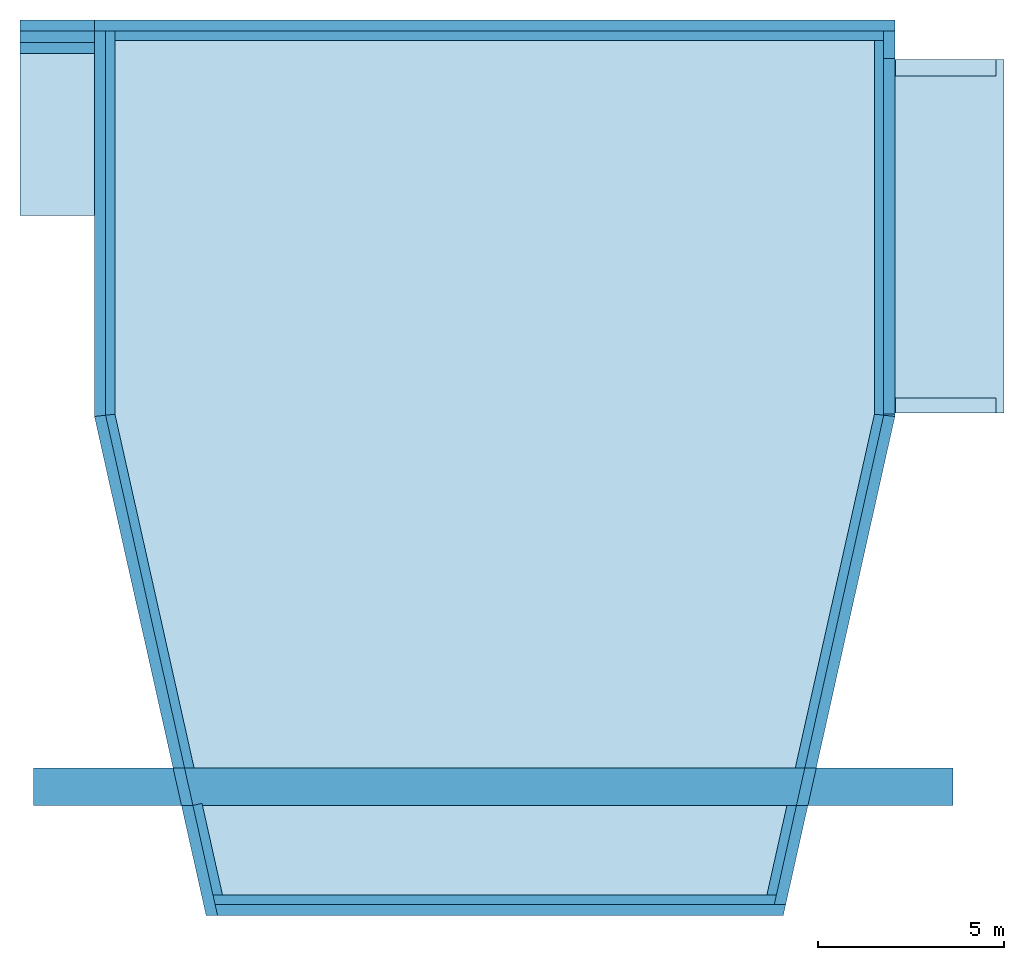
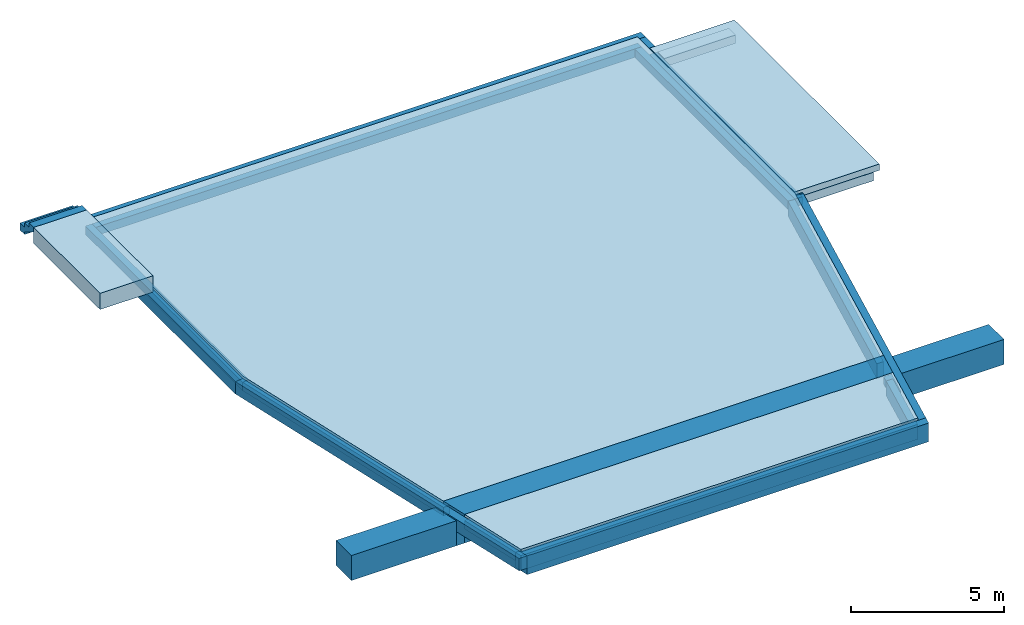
# One storey: 23 footings, 4 slabs, 1 stair.
"""IFC4 building model written with IfcOpenShell, lengths in metres."""

import ifcopenshell
import ifcopenshell.guid

model = None  # the IFC model being written
_history = None  # IfcOwnerHistory: only IFC2X3 demands one
_inside = {}  # id of a spatial element -> (the spatial element, [elements in it])
_under = {}  # id of a project, library or spatial element -> (it, [spatial elements below it])
_declared = {}  # id of a project -> (the project, [libraries it declares])
_typed = {}  # id of a type object -> (the type object, [elements of that type])
_made_of = {}  # id of a material, layer set ... -> (it, [elements and type objects made of it])


def new_model(schema):
    """Start an empty IFC model of exactly this schema.

    Asked for "IFC4X3", IfcOpenShell would pick the latest addendum, in which some entities
    have other attributes; the version numbers below select the first issue.
    IFC2X3 requires an IfcOwnerHistory on every rooted entity: one is made here for all.
    """
    global model, _history
    if schema == "IFC4X3":
        model = ifcopenshell.file(schema_version=(4, 3, 0, 0))
    else:
        model = ifcopenshell.file(schema=schema)
    _inside.clear()
    _under.clear()
    _declared.clear()
    _typed.clear()
    _made_of.clear()
    _history = None
    if model.schema == "IFC2X3":
        org = make("IfcOrganization", Name="unknown")
        user = make(
            "IfcPersonAndOrganization",
            ThePerson=make("IfcPerson", FamilyName="unknown"),
            TheOrganization=org,
        )
        app = make(
            "IfcApplication",
            ApplicationDeveloper=org,
            Version="unknown",
            ApplicationFullName="unknown",
            ApplicationIdentifier="unknown",
        )
        _history = make(
            "IfcOwnerHistory",
            OwningUser=user,
            OwningApplication=app,
            ChangeAction="ADDED",
            CreationDate=0,
        )
    return model


def make(cls, **values):
    """One entity of the class cls with the attributes given. An attribute that is None is left unset."""
    return model.create_entity(
        cls, **{name: value for name, value in values.items() if value is not None}
    )


def entity(cls, *values):
    """Any entity or typed value of the class cls, its attributes in the order of the schema. None: left unset."""
    e = model.create_entity(cls)
    for i, value in enumerate(values):
        if value is not None:
            e[i] = value
    return e


def rooted(cls, **values):
    """An entity with a GlobalId (a new one), such as an element, a storey or a relation."""
    return make(cls, GlobalId=ifcopenshell.guid.new(), OwnerHistory=_history, **values)


def si_unit(unit_type, name, prefix=None):
    """IfcSIUnit, for example si_unit("LENGTHUNIT", "METRE", prefix="MILLI")."""
    return make("IfcSIUnit", UnitType=unit_type, Prefix=prefix, Name=name)


def converted_unit(unit_type, name, factor, base, dimensions=None, offset=None):
    """IfcConversionBasedUnit, such as the inch: factor (a typed value) times the base unit."""
    return make(
        "IfcConversionBasedUnit"
        if offset is None
        else "IfcConversionBasedUnitWithOffset",
        ConversionOffset=offset,
        Dimensions=None
        if dimensions is None
        else entity("IfcDimensionalExponents", *dimensions),
        UnitType=unit_type,
        Name=name,
        ConversionFactor=make(
            "IfcMeasureWithUnit", ValueComponent=factor, UnitComponent=base
        ),
    )


def derived_unit(unit_type, elements):
    """IfcDerivedUnit: a product of units, each with its exponent."""
    return make(
        "IfcDerivedUnit",
        Elements=[
            make("IfcDerivedUnitElement", Unit=unit, Exponent=power)
            for unit, power in elements
        ],
        UnitType=unit_type,
    )


def assignment(units):
    """IfcUnitAssignment: the units of a project."""
    return None if units is None else make("IfcUnitAssignment", Units=units)


def point(xyz):
    """IfcCartesianPoint."""
    return None if xyz is None else make("IfcCartesianPoint", Coordinates=xyz)


def direction(xyz):
    """IfcDirection."""
    return None if xyz is None else make("IfcDirection", DirectionRatios=xyz)


def frame(location, z_axis=None, x_axis=None):
    """IfcAxis2Placement3D, a coordinate frame: its origin and axes. An axis left out is left unset."""
    return make(
        "IfcAxis2Placement3D",
        Location=point(location),
        Axis=direction(z_axis),
        RefDirection=direction(x_axis),
    )


def frame_2d(location, x_axis=None):
    """IfcAxis2Placement2D, a coordinate frame in the plane: its origin and x axis."""
    return make(
        "IfcAxis2Placement2D", Location=point(location), RefDirection=direction(x_axis)
    )


def origin():
    """The frame at (0, 0, 0) with its axes left unset."""
    return frame((0.0, 0.0, 0.0))


def origin_with_axes():
    """The frame at (0, 0, 0) with the z axis (0, 0, 1) and the x axis (1, 0, 0) written out."""
    return frame((0.0, 0.0, 0.0), z_axis=(0.0, 0.0, 1.0), x_axis=(1.0, 0.0, 0.0))


def place(relative_to, where):
    """IfcLocalPlacement: puts the frame where relative to a parent placement (None: the world)."""
    return make(
        "IfcLocalPlacement", PlacementRelTo=relative_to, RelativePlacement=where
    )


def context(
    kind, dimensions, precision=None, world=None, true_north=None, identifier=None
):
    """IfcGeometricRepresentationContext, for example the 3D "Model" context."""
    return make(
        "IfcGeometricRepresentationContext",
        ContextIdentifier=identifier,
        ContextType=kind,
        CoordinateSpaceDimension=dimensions,
        Precision=precision,
        WorldCoordinateSystem=world,
        TrueNorth=true_north,
    )


def subcontext(parent, identifier, kind, view, scale=None):
    """IfcGeometricRepresentationSubContext, for example "Body" below "Model"."""
    return make(
        "IfcGeometricRepresentationSubContext",
        ContextIdentifier=identifier,
        ContextType=kind,
        ParentContext=parent,
        TargetScale=scale,
        TargetView=view,
    )


def project(units=None, contexts=None):
    """IfcProject with its units and contexts."""
    return rooted(
        "IfcProject",
        Name="project",
        RepresentationContexts=contexts,
        UnitsInContext=assignment(units),
    )


def spatial(cls, under=None, at=None, **own):
    """A site, building, storey or space (cls), placed at a placement, below another one or the project."""
    s = rooted(cls, ObjectPlacement=at, **own)
    if under is not None:
        _under.setdefault(under.id(), (under, []))[1].append(s)
    return s


def polyline(points):
    """IfcPolyline through the points."""
    return make("IfcPolyline", Points=[point(p) for p in points])


def profile(cls, at=None, kind="AREA", **sizes):
    """A parametric profile (cls). Its sizes go by their IFC names, for example OverallWidth=200.0."""
    return make(cls, ProfileType=kind, Position=at, **sizes)


def rectangle(**sizes):
    """IfcRectangleProfileDef."""
    return profile("IfcRectangleProfileDef", **sizes)


def outline(outer, holes=None, kind="AREA"):
    """IfcArbitraryClosedProfileDef: a profile drawn as a closed curve; with holes, ...WithVoids."""
    if holes is None:
        return make("IfcArbitraryClosedProfileDef", ProfileType=kind, OuterCurve=outer)
    return make(
        "IfcArbitraryProfileDefWithVoids",
        ProfileType=kind,
        OuterCurve=outer,
        InnerCurves=holes,
    )


def extrude(swept, where, along, depth):
    """IfcExtrudedAreaSolid: the profile swept, set in the frame where, extruded along a direction by depth."""
    return make(
        "IfcExtrudedAreaSolid",
        SweptArea=swept,
        Position=where,
        ExtrudedDirection=direction(along),
        Depth=depth,
    )


def faces_of(points, faces, orient=None, outer=None):
    """IfcFace entities. A face is a list of loops; a loop is a list of indices into points, from 0.

    orient and outer hold one flag for each loop. By default every Orientation is true, the
    first loop of a face is its IfcFaceOuterBound and the others are IfcFaceBound.
    """
    made = []
    for i, loops in enumerate(faces):
        bounds = []
        for j, loop in enumerate(loops):
            is_outer = j == 0 if outer is None else outer[i][j]
            bounds.append(
                make(
                    "IfcFaceOuterBound" if is_outer else "IfcFaceBound",
                    Bound=make("IfcPolyLoop", Polygon=[points[k] for k in loop]),
                    Orientation=True if orient is None else orient[i][j],
                )
            )
        made.append(make("IfcFace", Bounds=bounds))
    return made


def faceted_brep(points, faces, orient=None, outer=None, voids=None):
    """IfcFacetedBrep: a solid bounded by flat faces; with voids (closed shells), ...WithVoids."""
    shared = [point(p) for p in points]
    hull = make("IfcClosedShell", CfsFaces=faces_of(shared, faces, orient, outer))
    if voids is None:
        return make("IfcFacetedBrep", Outer=hull)
    return make(
        "IfcFacetedBrepWithVoids",
        Outer=hull,
        Voids=[
            make(cls, CfsFaces=faces_of(shared, fs, o, b)) for cls, fs, o, b in voids
        ],
    )


def shape(context_of_items, identifier, shape_type, items):
    """IfcShapeRepresentation: the items that make up one representation, for example the "Body"."""
    return make(
        "IfcShapeRepresentation",
        ContextOfItems=context_of_items,
        RepresentationIdentifier=identifier,
        RepresentationType=shape_type,
        Items=items,
    )


def material(Name=None, Category=None):
    """IfcMaterial."""
    return make("IfcMaterial", Name=Name, Category=Category)


def made_of(thing, what):
    """Note that an element or type object is made of a material, layer set ...; save() writes the relation."""
    if what is not None:
        _made_of.setdefault(what.id(), (what, []))[1].append(thing)
    return thing


def element(
    cls,
    number,
    at=None,
    inside=None,
    cuts=None,
    type_object=None,
    material=None,
    context=None,
    identifier="Body",
    shape_type=None,
    held_by="IfcProductDefinitionShape",
    body=None,
    shapes=None,
    **own,
):
    """One element of the class cls, such as IfcWall. Its Tag is "e" and its number.

    at: its placement. inside: the storey or other place that contains it. cuts: it is an
    opening in that element (IfcRelVoidsElement). A single representation is given by context,
    identifier, shape_type and body (its items); several are given by shapes. held_by: the class
    of the entity that holds the representations. save() writes the other relations.
    """
    e = rooted(cls, Tag="e%d" % number, ObjectPlacement=at, **own)
    if body is not None:
        shapes = [shape(context, identifier, shape_type, body)]
    if shapes is not None:
        e.Representation = make(held_by, Representations=shapes)
    if inside is not None:
        _inside.setdefault(inside.id(), (inside, []))[1].append(e)
    if cuts is not None:
        rooted(
            "IfcRelVoidsElement", RelatingBuildingElement=cuts, RelatedOpeningElement=e
        )
    if type_object is not None:
        _typed.setdefault(type_object.id(), (type_object, []))[1].append(e)
    return made_of(e, material)


def aggregate(whole, parts):
    """IfcRelAggregates: a whole, such as a stair, and the parts it consists of."""
    return rooted("IfcRelAggregates", RelatingObject=whole, RelatedObjects=parts)


def save(model, path):
    """Write the relations noted so far, then the file.

    IfcRelAggregates (storeys below a building ...), IfcRelContainedInSpatialStructure (elements
    in a storey), IfcRelDefinesByType, IfcRelAssociatesMaterial and IfcRelDeclares: one each for
    every whole, place, type object, material and project.
    """
    for whole, parts in _under.values():
        aggregate(whole, parts)
    for where, things in _inside.values():
        rooted(
            "IfcRelContainedInSpatialStructure",
            RelatedElements=things,
            RelatingStructure=where,
        )
    for kind, things in _typed.values():
        rooted("IfcRelDefinesByType", RelatedObjects=things, RelatingType=kind)
    for what, things in _made_of.values():
        rooted("IfcRelAssociatesMaterial", RelatedObjects=things, RelatingMaterial=what)
    for by, libraries in _declared.values():
        rooted("IfcRelDeclares", RelatingContext=by, RelatedDefinitions=libraries)
    model.write(path)


model = new_model("IFC4")

# Units and contexts
model_context = context("Model", 3, precision=1e-05, world=origin())
plan_context = context("Plan", 2, precision=1e-05, world=origin())
body_context = subcontext(model_context, "Body", "Model", "MODEL_VIEW")
ifc_project = project(units=[si_unit("LENGTHUNIT", "METRE"), si_unit("AREAUNIT", "SQUARE_METRE"), si_unit("VOLUMEUNIT", "CUBIC_METRE"), si_unit("MASSUNIT", "GRAM", prefix="KILO"), converted_unit("PLANEANGLEUNIT", "DEGREE", entity("IfcPlaneAngleMeasure", 0.0174532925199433), si_unit("PLANEANGLEUNIT", "RADIAN"), dimensions=[0, 0, 0, 0, 0, 0, 0]), derived_unit("THERMALTRANSMITTANCEUNIT", [(si_unit("POWERUNIT", "WATT"), 1), (si_unit("THERMODYNAMICTEMPERATUREUNIT", "KELVIN"), -1), (si_unit("LENGTHUNIT", "METRE"), -2)]), derived_unit("VOLUMETRICFLOWRATEUNIT", [(si_unit("LENGTHUNIT", "METRE"), 3), (converted_unit("TIMEUNIT", "hour", entity("IfcTimeMeasure", 3600.0), si_unit("TIMEUNIT", "SECOND"), dimensions=[0, 0, 1, 0, 0, 0, 0]), -1), (si_unit("LENGTHUNIT", "METRE"), -1)])], contexts=[model_context, plan_context])

# Site, building, storey
site_placement = place(None, origin())
site = spatial("IfcSite", under=ifc_project, at=site_placement, Name="Site", CompositionType="ELEMENT")
building_placement = place(site_placement, origin())
building = spatial("IfcBuilding", under=site, at=building_placement, Name="Auditorium", CompositionType="ELEMENT")
storey_placement = place(building_placement, frame((0.0, 0.0, -0.8)))
storey = spatial("IfcBuildingStorey", under=building, at=storey_placement, Name="-01-Fondations", CompositionType="ELEMENT", Elevation=-0.8)

# Footings
ifc_material_1 = material(Name="C30/37")
footing_1_placement = place(storey_placement, frame((2.63386930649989, -0.250550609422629, -0.31)))
element("IfcFooting", 1, at=footing_1_placement, inside=storey, material=ifc_material_1, Name="Axe 1.1", PredefinedType="STRIP_FOOTING", context=body_context, shape_type="Brep", body=[
    faceted_brep([(-4.54747350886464e-16, 0.250000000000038, 0.0), (0.0559361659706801, 3.82556208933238e-14, 0.0), (15.0759312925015, 0.0, 0.0), (15.1318673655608, 0.249999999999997, 0.0), (0.0559361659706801, 3.82556208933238e-14, 0.6), (-4.54747350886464e-16, 0.250000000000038, 0.6), (15.1318673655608, 0.249999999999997, 0.6), (15.0759312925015, 0.0, 0.6)], [[[0, 1, 2, 3]], [[4, 5, 6, 7]], [[1, 0, 5, 4]], [[2, 1, 4, 7]], [[3, 2, 7, 6]], [[0, 3, 6, 5]]], orient=[[False], [False], [False], [False], [False], [False]]),
])
ifc_material_2 = material(Name="C30/37")
footing_2_placement = place(storey_placement, frame((2.094522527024, -0.000550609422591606, -0.05)))
element("IfcFooting", 2, at=footing_2_placement, inside=storey, material=ifc_material_2, Name="Oblique Axe 1.A", PredefinedType="STRIP_FOOTING", context=body_context, shape_type="Brep", body=[
    faceted_brep([(0.243967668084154, 2.46513322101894, 0.0), (4.54747350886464e-16, 2.41054588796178, 0.0), (0.539346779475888, 6.43707309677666e-16, 0.0), (0.795528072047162, -7.57172102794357e-17, 0.0), (4.54747350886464e-16, 2.41054588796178, 0.34), (0.243967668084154, 2.46513322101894, 0.34), (0.795528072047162, -7.57172102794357e-17, 0.34), (0.539346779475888, 6.43707309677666e-16, 0.34)], [[[0, 1, 2, 3]], [[4, 5, 6, 7]], [[1, 0, 5, 4]], [[2, 1, 4, 7]], [[3, 2, 7, 6]], [[0, 3, 6, 5]]], orient=[[False], [False], [False], [False], [False], [False]]),
])
ifc_material_3 = material(Name="C30/37")
footing_3_placement = place(storey_placement, frame((23.6598005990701, 22.4494493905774, -0.05), z_axis=(0.0, 0.0, 1.0), x_axis=(-1.0, 0.0, 0.0)))
element("IfcFooting", 3, at=footing_3_placement, inside=storey, material=ifc_material_3, Name="Axe 1.6", PredefinedType="STRIP_FOOTING", context=body_context, shape_type="SweptSolid", body=[
    extrude(rectangle(XDim=0.45, YDim=0.34, at=frame_2d((0.225, 0.17), x_axis=(1.0, 0.0))), frame((0.0, 0.0, 0.0), z_axis=(1.0, 0.0, 0.0), x_axis=(0.0, 1.0, 0.0)), (0.0, 0.0, 1.0), 2.69000000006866),
])
ifc_material_4 = material(Name="C30/37")
footing_4_placement = place(storey_placement, frame((20.9698005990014, 12.9494493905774, -0.05)))
element("IfcFooting", 4, at=footing_4_placement, inside=storey, material=ifc_material_4, Name="Axe 1.3", PredefinedType="STRIP_FOOTING", context=body_context, shape_type="SweptSolid", body=[
    extrude(rectangle(XDim=0.4, YDim=0.34, at=frame_2d((0.2, 0.17), x_axis=(1.0, 0.0))), frame((0.0, 0.0, 0.0), z_axis=(1.0, 0.0, 0.0), x_axis=(0.0, 1.0, 0.0)), (0.0, 0.0, 1.0), 2.69000000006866),
])
ifc_material_5 = material(Name="C30/37")
footing_5_placement = place(storey_placement, frame((17.5095553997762, -0.000550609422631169, -0.31)))
element("IfcFooting", 5, at=footing_5_placement, inside=storey, material=ifc_material_5, Name="Oblique Axe 1.D", PredefinedType="STRIP_FOOTING", context=body_context, shape_type="Brep", body=[
    faceted_brep([(0.0, -4.10782519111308e-17, 0.0), (0.256181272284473, -1.70530256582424e-16, 0.0), (0.795528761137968, 2.41055306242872, 0.0), (0.539345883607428, 2.41054588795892, 0.0), (0.256181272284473, -1.70530256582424e-16, 0.6), (0.0, -4.10782519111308e-17, 0.6), (0.539345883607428, 2.41054588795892, 0.6), (0.795528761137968, 2.41055306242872, 0.6)], [[[0, 1, 2, 3]], [[4, 5, 6, 7]], [[1, 0, 5, 4]], [[2, 1, 4, 7]], [[3, 2, 7, 6]], [[0, 3, 6, 5]]], orient=[[False], [False], [False], [False], [False], [False]]),
])
ifc_material_6 = material(Name="C30/37")
footing_6_placement = place(storey_placement, frame((2.68980059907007, -0.550550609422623, -0.31)))
element("IfcFooting", 6, at=footing_6_placement, inside=storey, material=ifc_material_6, Name="Axe 1.1", PredefinedType="STRIP_FOOTING", context=body_context, shape_type="Brep", body=[
    faceted_brep([(15.2602942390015, 0.0, 0.0), (15.3274175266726, 0.299999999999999, 0.0), (9.09494701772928e-16, 0.300000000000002, 0.0), (0.067123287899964, 7.16227077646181e-15, 0.0), (15.3274175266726, 0.299999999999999, 0.75), (15.2602942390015, 0.0, 0.75), (0.067123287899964, 7.16227077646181e-15, 0.75), (9.09494701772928e-16, 0.300000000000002, 0.75)], [[[0, 1, 2, 3]], [[4, 5, 6, 7]], [[1, 0, 5, 4]], [[2, 1, 4, 7]], [[3, 2, 7, 6]], [[0, 3, 6, 5]]], orient=[[False], [False], [False], [False], [False], [False]]),
])
ifc_material_7 = material(Name="C30/37")
footing_7_placement = place(storey_placement, frame((1.56335514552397, 2.40999527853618, -0.61)))
element("IfcFooting", 7, at=footing_7_placement, inside=storey, material=ifc_material_7, Name="Oblique Axe 1.A", PredefinedType="STRIP_FOOTING", context=body_context, shape_type="Brep", body=[
    faceted_brep([(0.531167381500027, 3.00906322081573e-12, 0.0), (0.307418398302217, 1.00000359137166, 0.0), (0.0, 1.00000790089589, 0.0), (0.223746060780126, 4.54747350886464e-16, 0.0), (0.307418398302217, 1.00000359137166, 0.56), (0.531167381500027, 3.00906322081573e-12, 0.56), (0.223746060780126, 4.54747350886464e-16, 0.56), (0.0, 1.00000790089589, 0.56)], [[[0, 1, 2, 3]], [[4, 5, 6, 7]], [[1, 0, 5, 4]], [[2, 1, 4, 7]], [[3, 2, 7, 6]], [[0, 3, 6, 5]]], orient=[[False], [False], [False], [False], [False], [False]]),
])
ifc_material_8 = material(Name="C30/37")
footing_8_placement = place(storey_placement, frame((18.3050841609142, 2.41000245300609, -0.61)))
element("IfcFooting", 8, at=footing_8_placement, inside=storey, material=ifc_material_8, Name="Oblique Axe 1.D", PredefinedType="STRIP_FOOTING", context=body_context, shape_type="Brep", body=[
    faceted_brep([(0.307486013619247, 7.26426020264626e-07, 0.0), (0.531230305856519, 0.999991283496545, 0.0), (0.223742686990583, 0.999992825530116, 0.0), (0.0, 0.0, 0.0), (0.531230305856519, 0.999991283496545, 0.3), (0.307486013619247, 7.26426020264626e-07, 0.3), (0.0, 0.0, 0.3), (0.223742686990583, 0.999992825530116, 0.3)], [[[0, 1, 2, 3]], [[4, 5, 6, 7]], [[1, 0, 5, 4]], [[2, 1, 4, 7]], [[3, 2, 7, 6]], [[0, 3, 6, 5]]], orient=[[False], [False], [False], [False], [False], [False]]),
])
ifc_material_9 = material(Name="C30/37")
footing_9_placement = place(storey_placement, frame((-2.19012930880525, 2.40999373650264, -0.61)))
element("IfcFooting", 9, at=footing_9_placement, inside=storey, material=ifc_material_9, Name="Axe 1.2", PredefinedType="STRIP_FOOTING", context=body_context, shape_type="Brep", body=[
    faceted_brep([(0.0, 1.00000944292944, 0.0), (0.0, 4.54747350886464e-16, 0.0), (3.97723051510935, 1.54203354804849e-06, 0.0), (3.75348445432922, 1.00000944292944, 0.0), (0.0, 4.54747350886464e-16, 1.0), (0.0, 1.00000944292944, 1.0), (3.75348445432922, 1.00000944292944, 1.0), (3.97723051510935, 1.54203354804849e-06, 1.0)], [[[0, 1, 2, 3]], [[4, 5, 6, 7]], [[1, 0, 5, 4]], [[2, 1, 4, 7]], [[3, 2, 7, 6]], [[0, 3, 6, 5]]], orient=[[False], [False], [False], [False], [False], [False]]),
])
ifc_material_10 = material(Name="C30/37")
footing_10_placement = place(storey_placement, frame((18.6125701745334, 2.40999373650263, -0.61)))
element("IfcFooting", 10, at=footing_10_placement, inside=storey, material=ifc_material_10, Name="Axe 1.2", PredefinedType="STRIP_FOOTING", context=body_context, shape_type="Brep", body=[
    faceted_brep([(3.8973005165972, 0.0, 0.0), (3.8973005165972, 1.0, 0.0), (0.223744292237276, 1.0, 0.0), (3.63797880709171e-15, 9.44292947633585e-06, 0.0), (3.8973005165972, 1.0, 1.0), (3.8973005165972, 0.0, 1.0), (3.63797880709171e-15, 9.44292947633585e-06, 1.0), (0.223744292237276, 1.0, 1.0)], [[[0, 1, 2, 3]], [[4, 5, 6, 7]], [[1, 0, 5, 4]], [[2, 1, 4, 7]], [[3, 2, 7, 6]], [[0, 3, 6, 5]]], orient=[[False], [False], [False], [False], [False], [False]]),
])
ifc_material_11 = material(Name="C30/37")
footing_11_placement = place(storey_placement, frame((-0.550199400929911, -0.550550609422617, -0.05)))
element("IfcFooting", 11, at=footing_11_placement, inside=storey, material=ifc_material_11, Name="Oblique Axe 1.A", PredefinedType="STRIP_FOOTING", context=body_context, shape_type="Brep", body=[
    faceted_brep([(2.9997057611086, 9.09494701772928e-16, 0.0), (3.30712328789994, 7.95807864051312e-16, 0.0), (0.300000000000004, 13.4399999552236, 0.0), (-1.13686837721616e-16, 13.4068481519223, 0.0), (3.30712328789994, 7.95807864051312e-16, 0.49), (2.9997057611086, 9.09494701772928e-16, 0.49), (-1.13686837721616e-16, 13.4068481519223, 0.49), (0.300000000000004, 13.4399999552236, 0.49)], [[[0, 1, 2, 3]], [[4, 5, 6, 7]], [[1, 0, 5, 4]], [[2, 1, 4, 7]], [[3, 2, 7, 6]], [[0, 3, 6, 5]]], orient=[[False], [False], [False], [False], [False], [False]]),
])
ifc_material_12 = material(Name="C30/37")
footing_12_placement = place(storey_placement, frame((-0.250199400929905, 3.40999881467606, -0.05)))
element("IfcFooting", 12, at=footing_12_placement, inside=storey, material=ifc_material_12, Name="Oblique Axe 1.A", PredefinedType="STRIP_FOOTING", context=body_context, shape_type="Brep", body=[
    faceted_brep([(0.25, 9.50707707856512, 0.0), (2.8421709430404e-17, 9.47945053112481, 0.0), (2.12097294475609, 5.52317774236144e-08, 0.0), (2.37715748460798, 0.0, 0.0), (2.8421709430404e-17, 9.47945053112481, 0.34), (0.25, 9.50707707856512, 0.34), (2.37715748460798, 0.0, 0.34), (2.12097294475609, 5.52317774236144e-08, 0.34)], [[[0, 1, 2, 3]], [[4, 5, 6, 7]], [[1, 0, 5, 4]], [[2, 1, 4, 7]], [[3, 2, 7, 6]], [[0, 3, 6, 5]]], orient=[[False], [False], [False], [False], [False], [False]]),
])
ifc_material_13 = material(Name="C30/37")
footing_13_placement = place(storey_placement, frame((20.6498005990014, 12.8562975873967, -0.31)))
element("IfcFooting", 13, at=footing_13_placement, inside=storey, material=ifc_material_13, Name="Axe 1.D", PredefinedType="STRIP_FOOTING", context=body_context, shape_type="Brep", body=[
    faceted_brep([(0.3, 0.07315180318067, 0.0), (3.63797880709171e-15, 0.07315180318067, 0.0), (3.63797880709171e-15, 0.0331518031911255, 0.0), (0.3, 0.0, 0.0), (3.63797880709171e-15, 0.07315180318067, 0.75), (0.3, 0.07315180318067, 0.75), (0.3, 0.0, 0.75), (3.63797880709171e-15, 0.0331518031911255, 0.75)], [[[0, 1, 2, 3]], [[4, 5, 6, 7]], [[1, 0, 5, 4]], [[2, 1, 4, 7]], [[3, 2, 7, 6]], [[0, 3, 6, 5]]], orient=[[False], [False], [False], [False], [False], [False]]),
])
ifc_material_14 = material(Name="C30/37")
footing_14_placement = place(storey_placement, frame((20.6498005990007, 23.2056588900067, -0.05), z_axis=(0.0, 0.0, 1.0), x_axis=(9.33943388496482e-13, -1.0, 0.0)))
element("IfcFooting", 14, at=footing_14_placement, inside=storey, material=ifc_material_14, Name="Axe 1.D", PredefinedType="STRIP_FOOTING", context=body_context, shape_type="SweptSolid", body=[
    extrude(rectangle(XDim=0.299999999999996, YDim=0.49, at=frame_2d((0.149999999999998, 0.245), x_axis=(1.0, 0.0))), frame((0.0, 0.0, 0.0), z_axis=(1.0, 0.0, 0.0), x_axis=(0.0, 1.0, 0.0)), (0.0, 0.0, 1.0), 0.736209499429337),
])
ifc_material_15 = material(Name="C30/37")
footing_15_placement = place(storey_placement, frame((18.2726455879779, 3.40999527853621, -0.31)))
element("IfcFooting", 15, at=footing_15_placement, inside=storey, material=ifc_material_15, Name="Oblique Axe 1.D", PredefinedType="STRIP_FOOTING", context=body_context, shape_type="Brep", body=[
    faceted_brep([(0.0, 5.52310702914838e-08, 0.0), (0.256181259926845, -4.54747350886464e-16, 0.0), (2.37715501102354, 9.4794541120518, 0.0), (2.12715501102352, 9.50708061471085, 0.0), (0.256181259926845, -4.54747350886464e-16, 0.6), (0.0, 5.52310702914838e-08, 0.6), (2.12715501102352, 9.50708061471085, 0.6), (2.37715501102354, 9.4794541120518, 0.6)], [[[0, 1, 2, 3]], [[4, 5, 6, 7]], [[1, 0, 5, 4]], [[2, 1, 4, 7]], [[3, 2, 7, 6]], [[0, 3, 6, 5]]], orient=[[False], [False], [False], [False], [False], [False]]),
])
ifc_material_16 = material(Name="C30/37")
footing_16_placement = place(storey_placement, frame((17.7098005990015, -0.250550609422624, -0.31)))
element("IfcFooting", 16, at=footing_16_placement, inside=storey, material=ifc_material_16, Name="Oblique Axe 1.D", PredefinedType="STRIP_FOOTING", context=body_context, shape_type="Brep", body=[
    faceted_brep([(3.23999999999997, 13.1068481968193, 0.0), (2.93999999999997, 13.1400000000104, 0.0), (0.0, -2.27373675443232e-16, 0.0), (0.307417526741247, -2.8421709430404e-16, 0.0), (2.93999999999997, 13.1400000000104, 0.75), (3.23999999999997, 13.1068481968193, 0.75), (0.307417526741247, -2.8421709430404e-16, 0.75), (0.0, -2.27373675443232e-16, 0.75)], [[[0, 1, 2, 3]], [[4, 5, 6, 7]], [[1, 0, 5, 4]], [[2, 1, 4, 7]], [[3, 2, 7, 6]], [[0, 3, 6, 5]]], orient=[[False], [False], [False], [False], [False], [False]]),
])
ifc_material_17 = material(Name="C30/37")
footing_17_placement = place(storey_placement, frame((-0.550199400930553, 23.2056591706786, -0.05), z_axis=(0.0, 0.0, 1.0), x_axis=(1.0, -1.32392368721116e-08, 0.0)))
element("IfcFooting", 17, at=footing_17_placement, inside=storey, material=ifc_material_17, Name="Axe 1.7", PredefinedType="STRIP_FOOTING", context=body_context, shape_type="SweptSolid", body=[
    extrude(rectangle(XDim=0.3, YDim=0.49, at=frame_2d((0.15, 0.245), x_axis=(1.0, 0.0))), frame((0.0, 0.0, 0.0), z_axis=(1.0, 0.0, 0.0), x_axis=(0.0, 1.0, 0.0)), (0.0, 0.0, 1.0), 21.4999999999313),
])
ifc_material_18 = material(Name="C30/37")
footing_18_placement = place(storey_placement, frame((-0.000199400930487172, 22.9556447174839, -0.05)))
element("IfcFooting", 18, at=footing_18_placement, inside=storey, material=ifc_material_18, Name="Axe 1.7", PredefinedType="STRIP_FOOTING", context=body_context, shape_type="Brep", body=[
    faceted_brep([(20.6499999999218, 0.0, 0.0), (20.6499999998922, 0.249999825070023, 0.0), (1.74969713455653e-07, 0.250014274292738, 0.0), (1.80477854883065e-15, 1.42742927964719e-05, 0.0), (20.4000000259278, 0.0, 0.0), (20.6499999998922, 0.249999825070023, 0.34), (20.6499999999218, 0.0, 0.34), (20.4000000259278, 0.0, 0.34), (1.80477854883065e-15, 1.42742927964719e-05, 0.34), (1.74969713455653e-07, 0.250014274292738, 0.34)], [[[0, 1, 2, 3, 4]], [[5, 6, 7, 8, 9]], [[1, 0, 6, 5]], [[2, 1, 5, 9]], [[3, 2, 9, 8]], [[4, 3, 8, 7]], [[0, 4, 7, 6]]], orient=[[False], [False], [False], [False], [False], [False], [False]]),
])
ifc_material_19 = material(Name="C30/37")
footing_19_placement = place(storey_placement, frame((1.87077354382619, 2.40999527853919, -0.61)))
element("IfcFooting", 19, at=footing_19_placement, inside=storey, material=ifc_material_19, Name="Axe 1.2", PredefinedType="STRIP_FOOTING", context=body_context, shape_type="Brep", body=[
    faceted_brep([(16.434310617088, 7.17446689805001e-06, 0.0), (16.6580533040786, 0.999999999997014, 0.0), (2.27373675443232e-16, 1.00000359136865, 0.0), (0.223748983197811, 0.0, 0.0), (16.6580533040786, 0.999999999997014, 1.15), (16.434310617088, 7.17446689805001e-06, 1.15), (0.223748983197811, 0.0, 1.15), (2.27373675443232e-16, 1.00000359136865, 1.15)], [[[0, 1, 2, 3]], [[4, 5, 6, 7]], [[1, 0, 5, 4]], [[2, 1, 4, 7]], [[3, 2, 7, 6]], [[0, 3, 6, 5]]], orient=[[False], [False], [False], [False], [False], [False]]),
])
ifc_material_20 = material(Name="C30/37")
footing_20_placement = place(storey_placement, frame((-0.550199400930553, 12.8562975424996, -0.05)))
element("IfcFooting", 20, at=footing_20_placement, inside=storey, material=ifc_material_20, Name="Axe 1.A", PredefinedType="STRIP_FOOTING", context=body_context, shape_type="Brep", body=[
    faceted_brep([(6.44490683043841e-13, 1.81898940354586e-15, 0.0), (0.300000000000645, 0.0331518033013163, 0.0), (0.3, 10.3493616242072, 0.0), (0.0, 10.3493616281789, 0.0), (0.300000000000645, 0.0331518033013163, 0.49), (6.44490683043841e-13, 1.81898940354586e-15, 0.49), (0.0, 10.3493616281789, 0.49), (0.3, 10.3493616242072, 0.49)], [[[0, 1, 2, 3]], [[4, 5, 6, 7]], [[1, 0, 5, 4]], [[2, 1, 4, 7]], [[3, 2, 7, 6]], [[0, 3, 6, 5]]], orient=[[False], [False], [False], [False], [False], [False]]),
])
ifc_material_21 = material(Name="C30/37")
footing_21_placement = place(storey_placement, frame((20.9498005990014, 12.9294493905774, -0.05), z_axis=(0.0, 0.0, 1.0), x_axis=(0.0, 1.0, 0.0)))
element("IfcFooting", 21, at=footing_21_placement, inside=storey, material=ifc_material_21, Name="Axe 1.D", PredefinedType="STRIP_FOOTING", context=body_context, shape_type="SweptSolid", body=[
    extrude(rectangle(XDim=0.3, YDim=0.32, at=frame_2d((0.15, 0.16), x_axis=(1.0, 0.0))), frame((0.0, 0.0, 0.0), z_axis=(1.0, 0.0, 0.0), x_axis=(0.0, 1.0, 0.0)), (0.0, 0.0, 1.0), 9.54000000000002),
])
ifc_material_22 = material(Name="C30/37")
footing_22_placement = place(storey_placement, frame((-0.250199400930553, 12.8894493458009, -0.05)))
element("IfcFooting", 22, at=footing_22_placement, inside=storey, material=ifc_material_22, Name="Axe 1.A", PredefinedType="STRIP_FOOTING", context=body_context, shape_type="Brep", body=[
    faceted_brep([(0.25, 10.3162096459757, 0.0), (0.0, 10.3162096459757, 0.0), (6.46991793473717e-13, -1.81898940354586e-15, 0.0), (0.250000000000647, 0.0276265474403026, 0.0), (0.0, 10.3162096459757, 0.34), (0.25, 10.3162096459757, 0.34), (0.250000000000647, 0.0276265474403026, 0.34), (6.46991793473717e-13, -1.81898940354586e-15, 0.34)], [[[0, 1, 2, 3]], [[4, 5, 6, 7]], [[1, 0, 5, 4]], [[2, 1, 4, 7]], [[3, 2, 7, 6]], [[0, 3, 6, 5]]], orient=[[False], [False], [False], [False], [False], [False]]),
])
ifc_material_23 = material(Name="C30/37")
footing_23_placement = place(storey_placement, frame((20.3998005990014, 12.889449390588, -0.05)))
element("IfcFooting", 23, at=footing_23_placement, inside=storey, material=ifc_material_23, Name="Axe 1.D", PredefinedType="STRIP_FOOTING", context=body_context, shape_type="Brep", body=[
    faceted_brep([(5.82076609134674e-14, 0.0276265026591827, 0.0), (0.250000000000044, 0.0, 0.0), (0.25, 10.0661953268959, 0.0), (0.0, 10.0661953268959, 0.0), (0.250000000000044, 0.0, 0.34), (5.82076609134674e-14, 0.0276265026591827, 0.34), (0.0, 10.0661953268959, 0.34), (0.25, 10.0661953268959, 0.34)], [[[0, 1, 2, 3]], [[4, 5, 6, 7]], [[1, 0, 5, 4]], [[2, 1, 4, 7]], [[3, 2, 7, 6]], [[0, 3, 6, 5]]], orient=[[False], [False], [False], [False], [False], [False]]),
])

# Slabs
ifc_material_24 = material(Name="C30/37")
slab_1_placement = place(storey_placement, frame((2.09451864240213, -0.250550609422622, 0.29)))
element("IfcSlab", 24, at=slab_1_placement, inside=storey, material=ifc_material_24, Name="Radier Audit.", PredefinedType="FLOOR", context=body_context, shape_type="SweptSolid", body=[
    extrude(outline(polyline([(16.2105639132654, 2.66054588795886), (0.0, 2.66054588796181), (0.595281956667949, 1.84741111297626e-15), (15.6152819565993, 0.0), (16.2105639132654, 2.66054588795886)])), origin_with_axes(), (0.0, 0.0, 1.0), 0.25),
])
ifc_material_25 = material(Name="C30/37")
slab_2_placement = place(storey_placement, frame((-2.55019940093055, 18.2556594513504, 0.75)))
element("IfcSlab", 25, at=slab_2_placement, inside=storey, material=ifc_material_25, Name="Dalle accès Audit.", PredefinedType="FLOOR", context=body_context, shape_type="SweptSolid", body=[
    extrude(rectangle(XDim=4.34999971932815, YDim=2.0, at=frame_2d((-1.0, 2.17499985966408), x_axis=(0.0, 1.0))), frame((2.0, 0.0, 0.0), z_axis=(0.0, 0.0, 1.0), x_axis=(1.0, 0.0, 0.0)), (0.0, 0.0, 1.0), 0.65),
])
ifc_material_26 = material(Name="C30/37")
slab_3_placement = place(storey_placement, frame((20.6698008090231, 12.9494493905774, 0.29)))
element("IfcSlab", 26, at=slab_3_placement, inside=storey, material=ifc_material_26, Name="Radier Sas", PredefinedType="FLOOR", context=body_context, shape_type="SweptSolid", body=[
    extrude(rectangle(XDim=9.5, YDim=3.20999979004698, at=frame_2d((1.60499989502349, -4.75), x_axis=(0.0, -1.0))), frame((0.0, 9.5, 0.0), z_axis=(0.0, 0.0, 1.0), x_axis=(1.0, 0.0, 0.0)), (0.0, 0.0, 1.0), 0.25),
])
ifc_material_27 = material(Name="C30/37")
slab_4_placement = place(storey_placement, frame((-0.250199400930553, 3.40999527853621, 0.29)))
element("IfcSlab", 27, at=slab_4_placement, inside=storey, material=ifc_material_27, Name="Radier Audit.", PredefinedType="FLOOR", context=body_context, shape_type="SweptSolid", body=[
    extrude(outline(polyline([(20.8999999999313, 19.7956636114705), (0.0, 19.7956636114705), (6.47560227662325e-13, 9.47945406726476), (2.06504109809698, 0.249999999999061), (2.12097294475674, 3.59137163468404e-06), (18.7790262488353, 0.0), (20.899999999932, 9.47945411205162), (20.8999999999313, 19.7956636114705)])), origin_with_axes(), (0.0, 0.0, 1.0), 0.25),
])

# Stair
ifc_material_28 = material(Name="C30/37")
stair_placement = place(storey_placement, frame((-2.55019940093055, 22.6056591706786, 0.75)))
element("IfcStair", 28, at=stair_placement, inside=storey, material=ifc_material_28, Name="Escalier BA Accès Audiy.", PredefinedType="NOTDEFINED", context=body_context, shape_type="Brep", body=[
    faceted_brep([(0.0, 0.599999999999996, 0.0973225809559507), (0.0, 0.0, 0.463989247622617), (2.0, 0.0, 0.463989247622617), (2.0, 0.599999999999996, 0.0973225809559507), (2.0, 0.599999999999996, 0.466666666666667), (2.0, 0.299999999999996, 0.466666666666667), (0.0, 0.299999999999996, 0.466666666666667), (0.0, 0.599999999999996, 0.466666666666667), (0.0, 0.599999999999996, 0.283333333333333), (2.0, 0.599999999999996, 0.283333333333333), (2.0, 0.3, 0.65), (2.0, 0.0, 0.65), (0.0, 0.0, 0.65), (0.0, 0.3, 0.65), (2.0, 0.899999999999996, 0.283333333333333), (0.0, 0.899999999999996, 0.283333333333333), (0.0, 0.899999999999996, 0.0), (2.0, 0.899999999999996, 0.0), (2.0, 0.599999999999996, 0.0), (0.0, 0.599999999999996, 0.0)], [[[0, 1, 2, 3]], [[4, 5, 6, 7]], [[4, 7, 8, 9]], [[10, 11, 12, 13]], [[12, 11, 2, 1]], [[10, 13, 6, 5]], [[14, 9, 8, 15]], [[14, 15, 16, 17]], [[18, 19, 0, 3]], [[14, 17, 18, 3, 2, 11, 10, 5, 4, 9]], [[15, 8, 7, 6, 13, 12, 1, 0, 19, 16]], [[16, 19, 18, 17]]], orient=[[False], [False], [False], [False], [False], [False], [False], [False], [False], [False], [False], [False]]),
])

save(model, "model.ifc")
